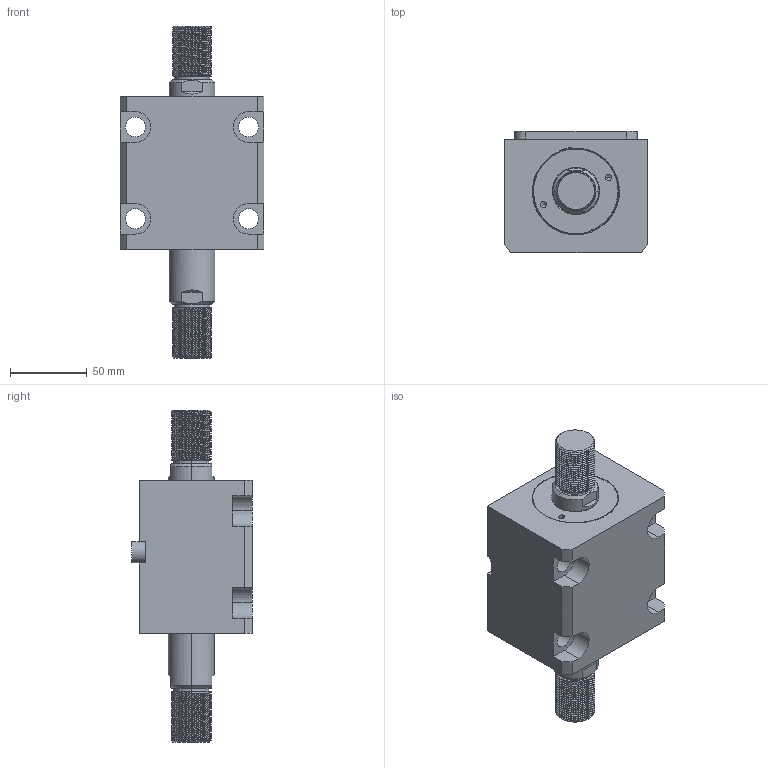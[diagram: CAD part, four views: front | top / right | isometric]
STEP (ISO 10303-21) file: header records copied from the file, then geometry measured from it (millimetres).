
FILE_DESCRIPTION (( 'STEP AP203' ), '1' );
FILE_NAME ('CHTB-LWM50-25W.STEP', '2018-05-22T08:32:35', ( '' ), ( '' ), 'SwSTEP 2.0', 'SolidWorks 2015', '' );
FILE_SCHEMA (( 'CONFIG_CONTROL_DESIGN' ));
Length unit declared in the file: millimetre
Products named in the file (4): CHTB-LWM50-25W; 活塞杆LWM50-25W; CHTM-SDMA50QG; 掛极LWM50-25W
Assembly tree (3 placements, depth 2):
  CHTB-LWM50-25W
    掛极LWM50-25W
    CHTM-SDMA50QG
    活塞杆LWM50-25W
Bounding box: 94 x 79 x 217 mm (x, y, z)
Volume: 678713.6 mm3; surface area: 116729 mm2
Topology: 3 solids, 3 shells, 302 faces, 837 edges, 557 vertices
Faces by surface type: cylinder 188, plane 62, cone 18, bspline 18, torus 16
Entity records: 19248 total; most frequent: CARTESIAN_POINT 11864, ORIENTED_EDGE 1666, DIRECTION 1265, EDGE_CURVE 833, VERTEX_POINT 557, AXIS2_PLACEMENT_3D 483, EDGE_LOOP 338, ADVANCED_FACE 302
